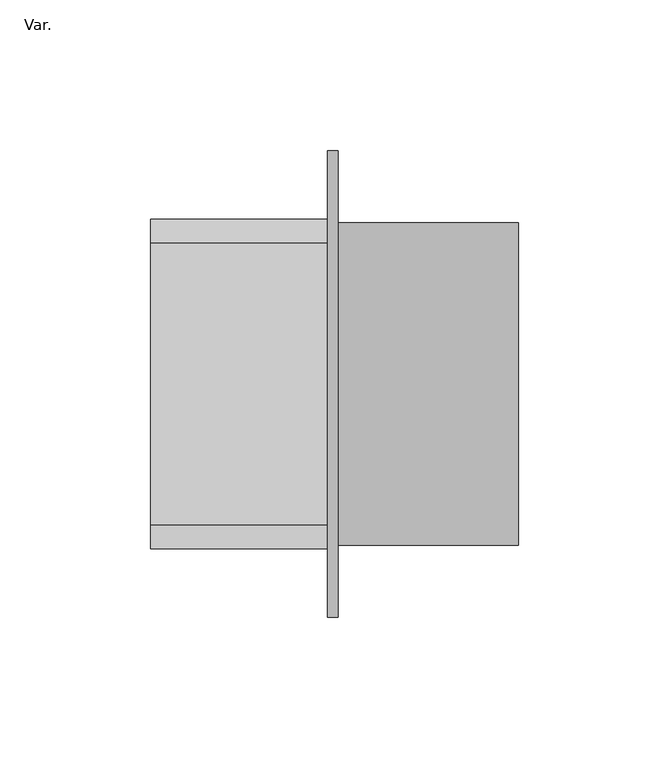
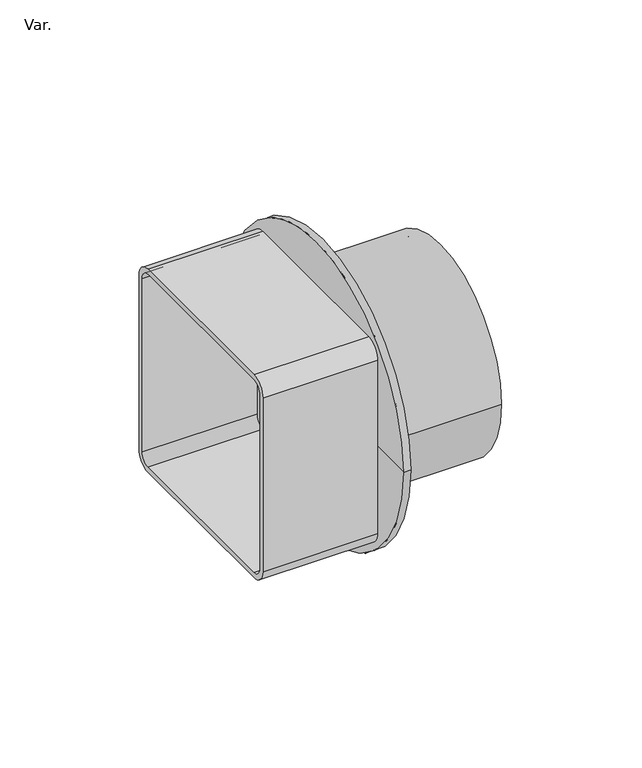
"""IFC4 building model written with IfcOpenShell, lengths in millimetres: pipe fitting geometry, PavcoWavin_UnionesDeTuberia_Bajante Rainmax_Adaptador : Var.."""

from ifc_helpers import new_model, si_unit, point, frame, frame_2d, origin, place, context, project, spatial, polyline, circle_curve, trimmed, segment, composite_curve, outline, extrude, source, transform, mapped, element, save
from ifc_brep_helpers import plane_surface, cylinder_surface, revolved_surface, advanced_brep


def var_498e2f51(model_context):
    return source(origin(), model_context, "Body", "SolidModel", [
        advanced_brep(
        [(60.0, -49.6, 0.0), (60.0, 49.6, 0.0), (-3.5, 49.6, 0.0), (-3.5, -49.6, 0.0), (60.0, -53.6, 0.0), (60.0, 53.6, 0.0), (0.0, -53.6, 0.0), (0.0, 53.6, 0.0), (0.0, -77.5, 0.0), (0.0, 77.5, 0.0), (-3.5, -77.5, 0.0), (-3.5, 77.5, 0.0)],
        [
            (0, 1, circle_curve(frame((60.0, 0.0, 0.0), z_axis=(1.0, 0.0, 0.0), x_axis=(0.0, 1.0, 0.0)), 49.6)),
            (1, 2),
            (2, 3, circle_curve(frame((-3.5, 0.0, 0.0), z_axis=(-1.0, 0.0, 0.0), x_axis=(0.0, 1.0, 0.0)), 49.6)),
            (3, 0),
            (1, 0, circle_curve(frame((60.0, 0.0, 0.0), z_axis=(1.0, 0.0, 0.0), x_axis=(0.0, 1.0, 0.0)), 49.6)),
            (3, 2, circle_curve(frame((-3.5, 0.0, 0.0), z_axis=(-1.0, 0.0, 0.0), x_axis=(0.0, 1.0, 0.0)), 49.6)),
            (4, 5, circle_curve(frame((60.0, 0.0, 0.0), z_axis=(1.0, 0.0, 0.0), x_axis=(0.0, 1.0, 0.0)), 53.6)),
            (5, 1),
            (0, 4),
            (5, 4, circle_curve(frame((60.0, 0.0, 0.0), z_axis=(1.0, 0.0, 0.0), x_axis=(0.0, 1.0, 0.0)), 53.6)),
            (6, 7, circle_curve(frame((0.0, 0.0, 0.0), z_axis=(1.0, 0.0, 0.0), x_axis=(0.0, 1.0, 0.0)), 53.6)),
            (7, 5),
            (4, 6),
            (7, 6, circle_curve(frame((0.0, 0.0, 0.0), z_axis=(1.0, 0.0, 0.0), x_axis=(0.0, 1.0, 0.0)), 53.6)),
            (8, 9, circle_curve(frame((0.0, 0.0, 0.0), z_axis=(1.0, 0.0, 0.0), x_axis=(0.0, 1.0, 0.0)), 77.5)),
            (9, 7),
            (6, 8),
            (9, 8, circle_curve(frame((0.0, 0.0, 0.0), z_axis=(1.0, 0.0, 0.0), x_axis=(0.0, 1.0, 0.0)), 77.5)),
            (10, 11, circle_curve(frame((-3.5, 0.0, 0.0), z_axis=(1.0, 0.0, 0.0), x_axis=(0.0, 1.0, 0.0)), 77.5)),
            (11, 9),
            (8, 10),
            (11, 10, circle_curve(frame((-3.5, 0.0, 0.0), z_axis=(1.0, 0.0, 0.0), x_axis=(0.0, 1.0, 0.0)), 77.5)),
            (2, 11),
            (10, 3),
        ],
        [
            revolved_surface(polyline([(-3.5, 49.6, 0.0), (60.0, 49.6, 0.0)]), (1937.7, 0.0, 0.0), (-1.0, 0.0, 0.0)),
            plane_surface(frame((60.0, 0.0, 0.0), z_axis=(1.0, 0.0, 0.0), x_axis=(0.0, 1.0, 0.0))),
            cylinder_surface(frame((1937.7, 0.0, 0.0), z_axis=(-1.0, 0.0, 0.0), x_axis=(0.0, 1.0, 0.0)), 53.6),
            plane_surface(frame((0.0, 0.0, 0.0), z_axis=(1.0, 0.0, 0.0), x_axis=(0.0, 1.0, 0.0))),
            cylinder_surface(frame((1937.7, 0.0, 0.0), z_axis=(-1.0, 0.0, 0.0), x_axis=(0.0, 1.0, 0.0)), 77.5),
            plane_surface(frame((-3.5, 0.0, 0.0), z_axis=(-1.0, 0.0, 0.0), x_axis=(0.0, 1.0, 0.0))),
        ],
        [
            (0, [[1, 2, 3, 4]]),
            (0, [[5, -4, 6, -2]]),
            (1, [[7, 8, -1, 9]]),
            (1, [[10, -9, -5, -8]]),
            (2, [[11, 12, -7, 13]]),
            (2, [[14, -13, -10, -12]]),
            (3, [[15, 16, -11, 17]]),
            (3, [[18, -17, -14, -16]]),
            (4, [[19, 20, -15, 21]]),
            (4, [[22, -21, -18, -20]]),
            (5, [[-3, 23, -19, 24]]),
            (5, [[-6, -24, -22, -23]]),
        ],
    ),
        extrude(outline(composite_curve([segment(polyline([(54.725, 46.825), (54.725, -46.825)]), True, "CONTINUOUS"), segment(trimmed(circle_curve(frame_2d((46.825, -46.825)), 7.9), [point((54.725, -46.825))], [point((46.825, -54.725))], False, "CARTESIAN"), True, "CONTINUOUS"), segment(polyline([(46.825, -54.725), (-46.825, -54.725)]), True, "CONTINUOUS"), segment(trimmed(circle_curve(frame_2d((-46.825, -46.825)), 7.9), [point((-46.825, -54.725))], [point((-54.725, -46.825))], False, "CARTESIAN"), True, "CONTINUOUS"), segment(polyline([(-54.725, -46.825), (-54.725, 46.825)]), True, "CONTINUOUS"), segment(trimmed(circle_curve(frame_2d((-46.825, 46.825)), 7.9), [point((-54.725, 46.825))], [point((-46.825, 54.725))], False, "CARTESIAN"), True, "CONTINUOUS"), segment(polyline([(-46.825, 54.725), (46.825, 54.725)]), True, "CONTINUOUS"), segment(trimmed(circle_curve(frame_2d((46.825, 46.825)), 7.9), [point((46.825, 54.725))], [point((54.725, 46.825))], False, "CARTESIAN"), True, "CONTINUOUS")], self_intersect=False), holes=[composite_curve([segment(polyline([(51.825, -46.825), (51.825, 46.825)]), True, "CONTINUOUS"), segment(trimmed(circle_curve(frame_2d((46.825, 46.825)), 5.0), [point((51.825, 46.825))], [point((46.825, 51.825))], True, "CARTESIAN"), True, "CONTINUOUS"), segment(polyline([(46.825, 51.825), (-46.825, 51.825)]), True, "CONTINUOUS"), segment(trimmed(circle_curve(frame_2d((-46.825, 46.825)), 5.0), [point((-46.825, 51.825))], [point((-51.825, 46.825))], True, "CARTESIAN"), True, "CONTINUOUS"), segment(polyline([(-51.825, 46.825), (-51.825, -46.825)]), True, "CONTINUOUS"), segment(trimmed(circle_curve(frame_2d((-46.825, -46.825)), 5.0), [point((-51.825, -46.825))], [point((-46.825, -51.825))], True, "CARTESIAN"), True, "CONTINUOUS"), segment(polyline([(-46.825, -51.825), (46.825, -51.825)]), True, "CONTINUOUS"), segment(trimmed(circle_curve(frame_2d((46.825, -46.825)), 5.0), [point((46.825, -51.825))], [point((51.825, -46.825))], True, "CARTESIAN"), True, "CONTINUOUS")], self_intersect=False)]), frame((-62.3, 0.0, 0.0), z_axis=(1.0, 0.0, 0.0), x_axis=(0.0, 1.0, 0.0)), (0.0, 0.0, 1.0), 58.8),
    ])


if __name__ == "__main__":
    model = new_model("IFC4")
    model_context = context("Model", 3, world=origin())
    ifc_project = project(units=[si_unit("LENGTHUNIT", "METRE", prefix="MILLI")], contexts=[model_context])
    site = spatial("IfcSite", under=ifc_project)
    building = spatial("IfcBuilding", under=site)
    placement = place(None, origin())
    var_shape = var_498e2f51(model_context)
    element("IfcPipeFitting", 1, ObjectType="PavcoWavin_UnionesDeTuberia_Bajante Rainmax_Adaptador : Var.", at=placement, inside=building, context=model_context, shape_type="MappedRepresentation", body=[
        mapped(var_shape, transform((0.0, 0.0, 0.0), x_axis=(1.0, 0.0, 0.0), y_axis=(0.0, 1.0, 0.0), z_axis=(0.0, 0.0, 1.0))),
    ])
    save(model, "model.ifc")
